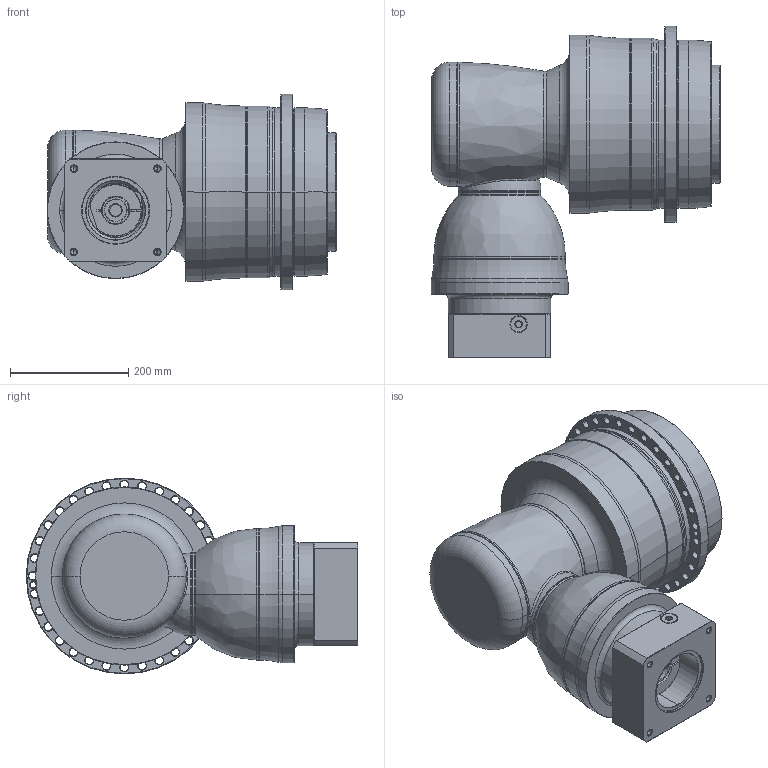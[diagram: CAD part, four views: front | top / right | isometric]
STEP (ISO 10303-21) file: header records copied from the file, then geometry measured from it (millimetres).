
FILE_DESCRIPTION((''),'2;1');
FILE_NAME('APK285_4ST_38-P0409910201_ASM','2018-11-22T',('D00080'),(''),'PRO/ENGINEER BY PARAMETRIC TECHNOLOGY CORPORATION, 2015240','PRO/ENGINEER BY PARAMETRIC TECHNOLOGY CORPORATION, 2015240','');
FILE_SCHEMA(('CONFIG_CONTROL_DESIGN'));
Length unit declared in the file: millimetre
Products named in the file (13): P1008600002; P1832810001; P0278801003; P0359801103; P1211800001; P1315600001; P1007601001; P1317610401; P0503900012; P0912554001; P0409910201; 21711422019; APK285_4ST_38-P0409910201_ASM
Assembly tree (12 placements, depth 2):
  APK285_4ST_38-P0409910201_ASM
    P1008600002
    P1832810001
    P0278801003
    P0359801103
    P1211800001
    P1315600001
    P1007601001
    P1317610401
    P0503900012
    P0912554001
    P0409910201
    21711422019
Bounding box: 491 x 561.5 x 332 mm (x, y, z)
Volume: 32109694.6 mm3; surface area: 1810960.7 mm2
Topology: 13 solids, 36 shells, 800 faces, 1818 edges, 1087 vertices
Faces by surface type: cylinder 309, cone 252, plane 121, torus 83, bspline 33, sphere 2
Entity records: 29014 total; most frequent: CARTESIAN_POINT 10345, DIRECTION 4285, ORIENTED_EDGE 3470, AXIS2_PLACEMENT_3D 1829, EDGE_CURVE 1782, VERTEX_POINT 1087, CIRCLE 1025, EDGE_LOOP 963
